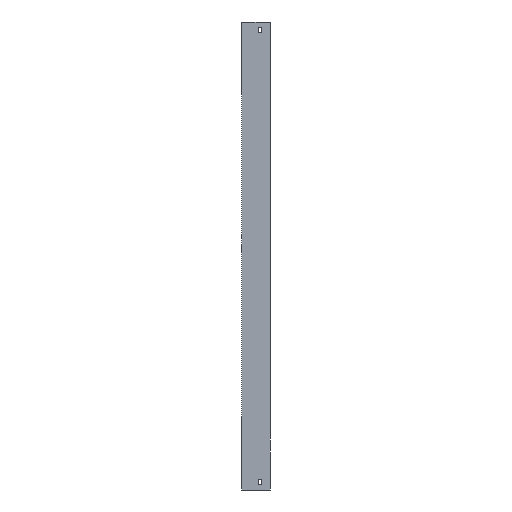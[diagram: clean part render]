
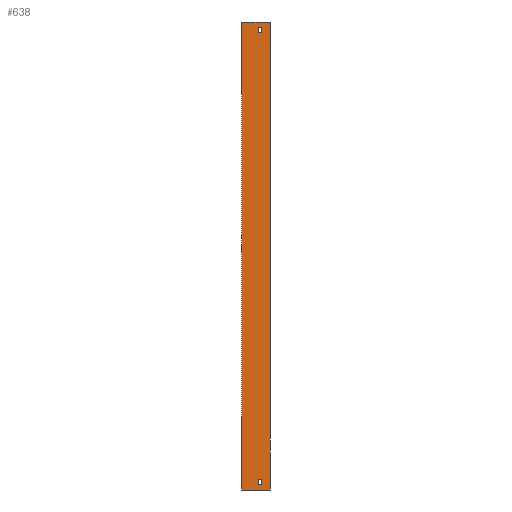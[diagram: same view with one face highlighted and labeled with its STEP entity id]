
A CAD part, left-side view. The second image highlights one B-rep face of the part: STEP entity #638.
In plain terms, the highlighted planar face has unit normal (-1, 0, 0).
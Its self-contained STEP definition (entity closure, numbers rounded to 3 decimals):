
#37 = FACE_BOUND ( 'NONE', #1632, .T. ) ;
#48 = VERTEX_POINT ( 'NONE', #1660 ) ;
#49 = CARTESIAN_POINT ( 'NONE',  ( -704., 15., -814. ) ) ;
#50 = EDGE_CURVE ( 'NONE', #48, #405, #1531, .T. ) ;
#70 = EDGE_CURVE ( 'NONE', #1913, #914, #1208, .T. ) ;
#122 = LINE ( 'NONE', #749, #1211 ) ;
#127 = ORIENTED_EDGE ( 'NONE', *, *, #691, .T. ) ;
#142 = DIRECTION ( 'NONE',  ( 0., 0., 1. ) ) ;
#168 = LINE ( 'NONE', #937, #1044 ) ;
#176 = FACE_OUTER_BOUND ( 'NONE', #680, .T. ) ;
#187 = DIRECTION ( 'NONE',  ( 0., 0., -1. ) ) ;
#213 = VERTEX_POINT ( 'NONE', #1122 ) ;
#258 = CARTESIAN_POINT ( 'NONE',  ( -704., 22., -824. ) ) ;
#267 = VECTOR ( 'NONE', #1234, 1000. ) ;
#268 = VERTEX_POINT ( 'NONE', #49 ) ;
#284 = ORIENTED_EDGE ( 'NONE', *, *, #826, .F. ) ;
#300 = EDGE_CURVE ( 'NONE', #268, #586, #1407, .T. ) ;
#336 = LINE ( 'NONE', #1519, #455 ) ;
#352 = CARTESIAN_POINT ( 'NONE',  ( -704., 22., -814. ) ) ;
#353 = VERTEX_POINT ( 'NONE', #1743 ) ;
#398 = CARTESIAN_POINT ( 'NONE',  ( -704., 15., 10. ) ) ;
#405 = VERTEX_POINT ( 'NONE', #398 ) ;
#455 = VECTOR ( 'NONE', #1221, 1000. ) ;
#484 = DIRECTION ( 'NONE',  ( 0., 0., 1. ) ) ;
#529 = EDGE_LOOP ( 'NONE', ( #284, #1576, #1461, #1884 ) ) ;
#533 = CARTESIAN_POINT ( 'NONE',  ( -704., 0., 30. ) ) ;
#539 = EDGE_CURVE ( 'NONE', #586, #1925, #1046, .T. ) ;
#545 = CARTESIAN_POINT ( 'NONE',  ( -704., 22., 10. ) ) ;
#562 = VECTOR ( 'NONE', #1749, 1000. ) ;
#581 = ORIENTED_EDGE ( 'NONE', *, *, #1672, .T. ) ;
#582 = EDGE_CURVE ( 'NONE', #1452, #1417, #168, .T. ) ;
#586 = VERTEX_POINT ( 'NONE', #1708 ) ;
#638 = ADVANCED_FACE ( 'NONE', ( #176, #37, #795 ), #1555, .F. ) ;
#645 = DIRECTION ( 'NONE',  ( 0., 1., 0. ) ) ;
#664 = VERTEX_POINT ( 'NONE', #1413 ) ;
#672 = AXIS2_PLACEMENT_3D ( 'NONE', #1104, #1529, #765 ) ;
#680 = EDGE_LOOP ( 'NONE', ( #1713, #1932, #1755, #127 ) ) ;
#691 = EDGE_CURVE ( 'NONE', #353, #1452, #929, .T. ) ;
#712 = CARTESIAN_POINT ( 'NONE',  ( -704., 22., -824. ) ) ;
#713 = DIRECTION ( 'NONE',  ( 0., -1., 0. ) ) ;
#749 = CARTESIAN_POINT ( 'NONE',  ( -704., 52., 30. ) ) ;
#765 = DIRECTION ( 'NONE',  ( 0., 0., -1. ) ) ;
#767 = CARTESIAN_POINT ( 'NONE',  ( -704., 15., 20. ) ) ;
#775 = CARTESIAN_POINT ( 'NONE',  ( -704., 52., -834. ) ) ;
#795 = FACE_BOUND ( 'NONE', #529, .T. ) ;
#826 = EDGE_CURVE ( 'NONE', #1925, #213, #1608, .T. ) ;
#838 = LINE ( 'NONE', #1131, #1144 ) ;
#911 = LINE ( 'NONE', #1205, #1746 ) ;
#914 = VERTEX_POINT ( 'NONE', #1350 ) ;
#929 = LINE ( 'NONE', #775, #1366 ) ;
#937 = CARTESIAN_POINT ( 'NONE',  ( -704., 0., -834. ) ) ;
#954 = CARTESIAN_POINT ( 'NONE',  ( -704., 0., -834. ) ) ;
#1044 = VECTOR ( 'NONE', #484, 1000. ) ;
#1046 = LINE ( 'NONE', #1652, #1653 ) ;
#1063 = ORIENTED_EDGE ( 'NONE', *, *, #50, .T. ) ;
#1094 = ORIENTED_EDGE ( 'NONE', *, *, #70, .T. ) ;
#1104 = CARTESIAN_POINT ( 'NONE',  ( -704., 52., -834. ) ) ;
#1118 = DIRECTION ( 'NONE',  ( 0., -1., 0. ) ) ;
#1122 = CARTESIAN_POINT ( 'NONE',  ( -704., 15., -824. ) ) ;
#1131 = CARTESIAN_POINT ( 'NONE',  ( -704., 22., 20. ) ) ;
#1144 = VECTOR ( 'NONE', #1271, 1000. ) ;
#1205 = CARTESIAN_POINT ( 'NONE',  ( -704., 22., 10. ) ) ;
#1208 = LINE ( 'NONE', #1357, #1723 ) ;
#1211 = VECTOR ( 'NONE', #713, 1000. ) ;
#1221 = DIRECTION ( 'NONE',  ( 0., 0., 1. ) ) ;
#1234 = DIRECTION ( 'NONE',  ( 0., 1., 0. ) ) ;
#1271 = DIRECTION ( 'NONE',  ( 0., -1., 0. ) ) ;
#1350 = CARTESIAN_POINT ( 'NONE',  ( -704., 22., 20. ) ) ;
#1356 = LINE ( 'NONE', #1499, #1839 ) ;
#1357 = CARTESIAN_POINT ( 'NONE',  ( -704., 22., 20. ) ) ;
#1366 = VECTOR ( 'NONE', #1118, 1000. ) ;
#1375 = DIRECTION ( 'NONE',  ( 0., 0., 1. ) ) ;
#1407 = LINE ( 'NONE', #352, #267 ) ;
#1413 = CARTESIAN_POINT ( 'NONE',  ( -704., 52., 30. ) ) ;
#1417 = VERTEX_POINT ( 'NONE', #533 ) ;
#1452 = VERTEX_POINT ( 'NONE', #954 ) ;
#1461 = ORIENTED_EDGE ( 'NONE', *, *, #300, .F. ) ;
#1498 = EDGE_CURVE ( 'NONE', #664, #1417, #122, .T. ) ;
#1499 = CARTESIAN_POINT ( 'NONE',  ( -704., 15., -824. ) ) ;
#1519 = CARTESIAN_POINT ( 'NONE',  ( -704., 52., -834. ) ) ;
#1529 = DIRECTION ( 'NONE',  ( 1., 0., 0. ) ) ;
#1531 = LINE ( 'NONE', #767, #1541 ) ;
#1541 = VECTOR ( 'NONE', #187, 1000. ) ;
#1555 = PLANE ( 'NONE',  #672 ) ;
#1559 = EDGE_CURVE ( 'NONE', #213, #268, #1356, .T. ) ;
#1576 = ORIENTED_EDGE ( 'NONE', *, *, #539, .F. ) ;
#1608 = LINE ( 'NONE', #712, #562 ) ;
#1632 = EDGE_LOOP ( 'NONE', ( #1094, #1788, #1063, #581 ) ) ;
#1652 = CARTESIAN_POINT ( 'NONE',  ( -704., 22., -824. ) ) ;
#1653 = VECTOR ( 'NONE', #1813, 1000. ) ;
#1660 = CARTESIAN_POINT ( 'NONE',  ( -704., 15., 20. ) ) ;
#1672 = EDGE_CURVE ( 'NONE', #405, #1913, #911, .T. ) ;
#1675 = EDGE_CURVE ( 'NONE', #353, #664, #336, .T. ) ;
#1708 = CARTESIAN_POINT ( 'NONE',  ( -704., 22., -814. ) ) ;
#1713 = ORIENTED_EDGE ( 'NONE', *, *, #582, .T. ) ;
#1723 = VECTOR ( 'NONE', #1375, 1000. ) ;
#1743 = CARTESIAN_POINT ( 'NONE',  ( -704., 52., -834. ) ) ;
#1746 = VECTOR ( 'NONE', #645, 1000. ) ;
#1749 = DIRECTION ( 'NONE',  ( 0., -1., 0. ) ) ;
#1755 = ORIENTED_EDGE ( 'NONE', *, *, #1675, .F. ) ;
#1758 = EDGE_CURVE ( 'NONE', #914, #48, #838, .T. ) ;
#1788 = ORIENTED_EDGE ( 'NONE', *, *, #1758, .T. ) ;
#1813 = DIRECTION ( 'NONE',  ( 0., 0., -1. ) ) ;
#1839 = VECTOR ( 'NONE', #142, 1000. ) ;
#1884 = ORIENTED_EDGE ( 'NONE', *, *, #1559, .F. ) ;
#1913 = VERTEX_POINT ( 'NONE', #545 ) ;
#1925 = VERTEX_POINT ( 'NONE', #258 ) ;
#1932 = ORIENTED_EDGE ( 'NONE', *, *, #1498, .F. ) ;
